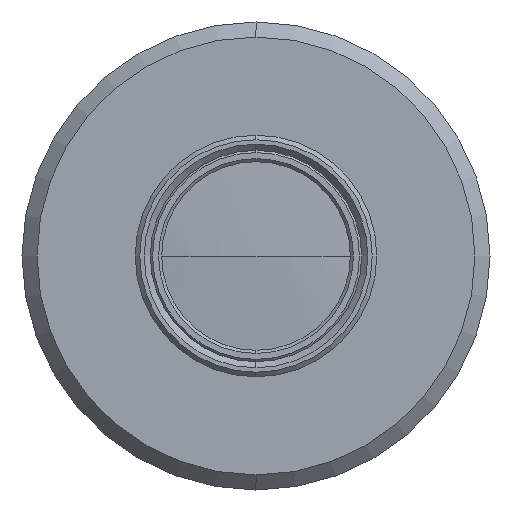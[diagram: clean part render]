
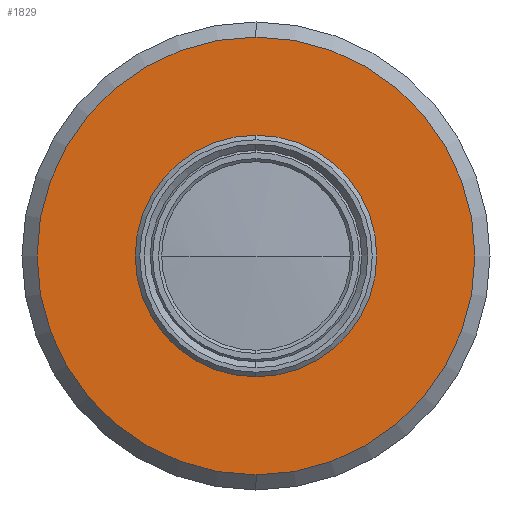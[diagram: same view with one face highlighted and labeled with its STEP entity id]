
A CAD part, left-side view. The second image highlights one B-rep face of the part: STEP entity #1829.
In plain terms, the highlighted planar face has unit normal (-1, 0, 0).
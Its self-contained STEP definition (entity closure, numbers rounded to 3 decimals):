
#90 = CARTESIAN_POINT ( 'NONE',  ( -24.026, 0., 0. ) ) ;
#99 = DIRECTION ( 'NONE',  ( 0., 0., 1. ) ) ;
#111 = CARTESIAN_POINT ( 'NONE',  ( -24.026, 0., -14.5 ) ) ;
#179 = VERTEX_POINT ( 'NONE', #690 ) ;
#239 = ORIENTED_EDGE ( 'NONE', *, *, #849, .F. ) ;
#249 = DIRECTION ( 'NONE',  ( -1., 0., 0. ) ) ;
#340 = ORIENTED_EDGE ( 'NONE', *, *, #863, .T. ) ;
#344 = CARTESIAN_POINT ( 'NONE',  ( -24.026, 8., 0. ) ) ;
#431 = EDGE_LOOP ( 'NONE', ( #340, #631 ) ) ;
#580 = DIRECTION ( 'NONE',  ( 0., 0., 1. ) ) ;
#615 = CIRCLE ( 'NONE', #1138, 14.5 ) ;
#631 = ORIENTED_EDGE ( 'NONE', *, *, #1182, .T. ) ;
#641 = EDGE_LOOP ( 'NONE', ( #1200, #239 ) ) ;
#648 = CARTESIAN_POINT ( 'NONE',  ( -24.026, 0., 14.5 ) ) ;
#652 = PLANE ( 'NONE',  #730 ) ;
#690 = CARTESIAN_POINT ( 'NONE',  ( -24.026, 0., -8. ) ) ;
#697 = DIRECTION ( 'NONE',  ( 0., 0., -1. ) ) ;
#730 = AXIS2_PLACEMENT_3D ( 'NONE', #344, #1514, #697 ) ;
#782 = CARTESIAN_POINT ( 'NONE',  ( -24.026, 0., 0. ) ) ;
#849 = EDGE_CURVE ( 'NONE', #179, #1469, #1586, .T. ) ;
#863 = EDGE_CURVE ( 'NONE', #1609, #951, #1851, .T. ) ;
#951 = VERTEX_POINT ( 'NONE', #648 ) ;
#970 = FACE_OUTER_BOUND ( 'NONE', #431, .T. ) ;
#1099 = CARTESIAN_POINT ( 'NONE',  ( -24.026, 0., 0. ) ) ;
#1121 = CARTESIAN_POINT ( 'NONE',  ( -24.026, 0., 8. ) ) ;
#1138 = AXIS2_PLACEMENT_3D ( 'NONE', #1517, #1680, #1854 ) ;
#1158 = AXIS2_PLACEMENT_3D ( 'NONE', #90, #1610, #99 ) ;
#1182 = EDGE_CURVE ( 'NONE', #951, #1609, #615, .T. ) ;
#1200 = ORIENTED_EDGE ( 'NONE', *, *, #2086, .F. ) ;
#1249 = CIRCLE ( 'NONE', #2151, 8. ) ;
#1256 = DIRECTION ( 'NONE',  ( 0., 0., 1. ) ) ;
#1469 = VERTEX_POINT ( 'NONE', #1121 ) ;
#1514 = DIRECTION ( 'NONE',  ( 1., 0., 0. ) ) ;
#1517 = CARTESIAN_POINT ( 'NONE',  ( -24.026, 0., 0. ) ) ;
#1586 = CIRCLE ( 'NONE', #1158, 8. ) ;
#1609 = VERTEX_POINT ( 'NONE', #111 ) ;
#1610 = DIRECTION ( 'NONE',  ( -1., 0., 0. ) ) ;
#1626 = DIRECTION ( 'NONE',  ( -1., 0., 0. ) ) ;
#1680 = DIRECTION ( 'NONE',  ( -1., 0., 0. ) ) ;
#1773 = FACE_BOUND ( 'NONE', #641, .T. ) ;
#1829 = ADVANCED_FACE ( 'NONE', ( #1773, #970 ), #652, .F. ) ;
#1851 = CIRCLE ( 'NONE', #2107, 14.5 ) ;
#1854 = DIRECTION ( 'NONE',  ( 0., 0., 1. ) ) ;
#2086 = EDGE_CURVE ( 'NONE', #1469, #179, #1249, .T. ) ;
#2107 = AXIS2_PLACEMENT_3D ( 'NONE', #1099, #249, #580 ) ;
#2151 = AXIS2_PLACEMENT_3D ( 'NONE', #782, #1626, #1256 ) ;
